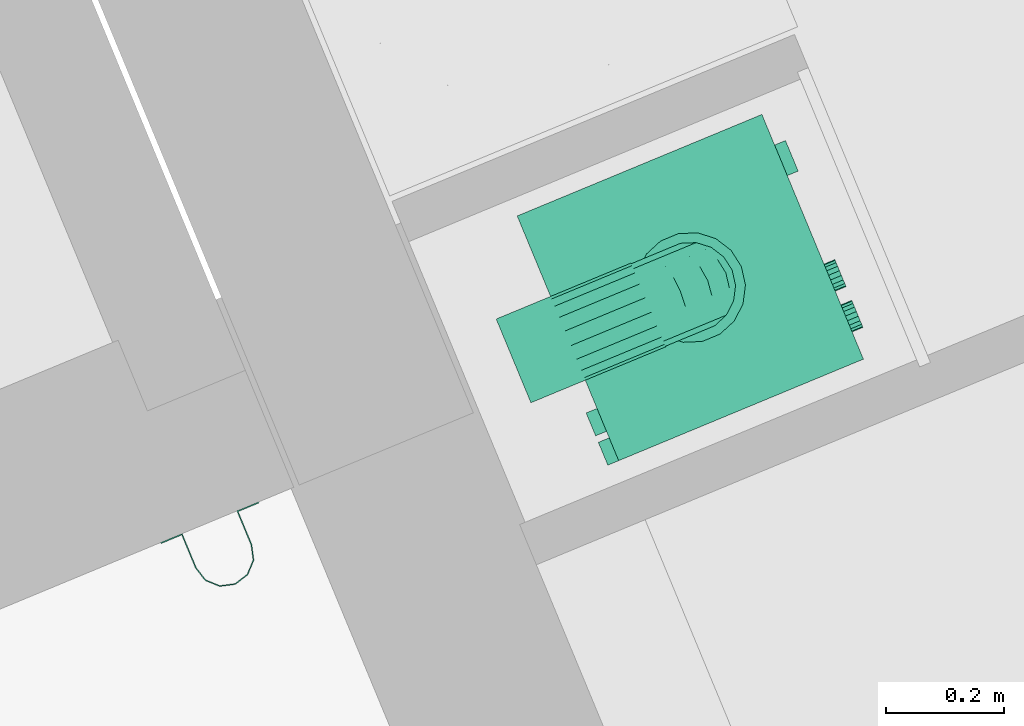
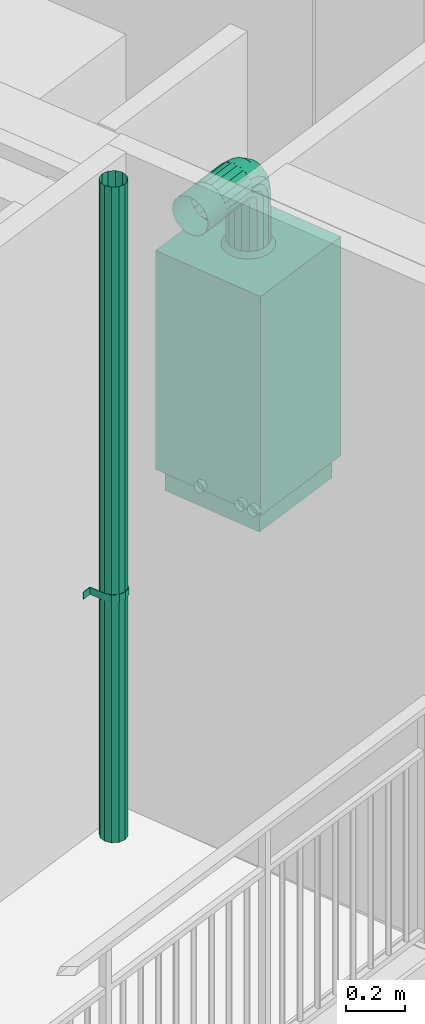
# One storey, part 69 of 90: 1 energy conversion device, 1 flow terminal.
"""IFC2X3 building model written with IfcOpenShell, lengths in metres."""

from ifc_helpers import new_model, entity, si_unit, converted_unit, derived_unit, money_unit, direction, frame, origin_with_axes, place, context, subcontext, project, spatial, open_shell, faceted_brep, surface_model, source, transform, mapped, type_object, element, save


model = new_model("IFC2X3")

# Units and contexts
model_context = context("Model", 3, precision=1e-05, world=origin_with_axes(), true_north=direction((0.0, 1.0)))
body_context = subcontext(model_context, "Body", "Model", "MODEL_VIEW")
ifc_project = project(units=[si_unit("LENGTHUNIT", "METRE"), si_unit("AREAUNIT", "SQUARE_METRE"), si_unit("VOLUMEUNIT", "CUBIC_METRE"), converted_unit("PLANEANGLEUNIT", "DEGREE", entity("IfcPlaneAngleMeasure", 0.0174532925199), si_unit("PLANEANGLEUNIT", "RADIAN"), dimensions=[0, 0, 0, 0, 0, 0, 0]), si_unit("SOLIDANGLEUNIT", "STERADIAN"), money_unit("EUR"), converted_unit("TIMEUNIT", "Year", entity("IfcTimeMeasure", 31556926.0), si_unit("TIMEUNIT", "SECOND"), dimensions=[0, 0, 1, 0, 0, 0, 0]), si_unit("MASSUNIT", "GRAM", prefix="KILO"), si_unit("THERMODYNAMICTEMPERATUREUNIT", "DEGREE_CELSIUS"), si_unit("LUMINOUSINTENSITYUNIT", "LUMEN"), si_unit("ENERGYUNIT", "JOULE", prefix="MEGA"), derived_unit("THERMALCONDUCTANCEUNIT", [(si_unit("POWERUNIT", "WATT"), 1), (si_unit("LENGTHUNIT", "METRE"), -1), (si_unit("THERMODYNAMICTEMPERATUREUNIT", "KELVIN"), -1)]), derived_unit("SPECIFICHEATCAPACITYUNIT", [(si_unit("ENERGYUNIT", "JOULE"), 1), (si_unit("MASSUNIT", "GRAM", prefix="KILO"), -1), (si_unit("THERMODYNAMICTEMPERATUREUNIT", "KELVIN"), -1)]), derived_unit("MASSDENSITYUNIT", [(si_unit("MASSUNIT", "GRAM", prefix="KILO"), 1), (si_unit("VOLUMEUNIT", "CUBIC_METRE"), -1)])], contexts=[model_context])

# Site, building, storey
site_placement = place(None, origin_with_axes())
site = spatial("IfcSite", under=ifc_project, at=site_placement, Name="Site", CompositionType="ELEMENT")
building_placement = place(site_placement, origin_with_axes())
building = spatial("IfcBuilding", under=site, at=building_placement, Name="Bâtiment", CompositionType="ELEMENT")
storey_placement = place(building_placement, frame((0.0, 0.0, 2.72), z_axis=(0.0, 0.0, 1.0), x_axis=(1.0, 0.0, 0.0)))
storey = spatial("IfcBuildingStorey", under=building, at=storey_placement, Name="R+1", CompositionType="ELEMENT", Elevation=2.72)

# Energy conversion device
boiler_type = type_object("IfcBoilerType", Name="Chaudière à gaz 23", PredefinedType="WATER")
shared_shape_1 = source(origin_with_axes(), body_context, "Body", "SurfaceModel", [
    surface_model("IfcShellBasedSurfaceModel", [(-0.2, 0.45, 0.090909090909), (-0.2, 0.47, 0.090909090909), (-0.194564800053, 0.47, 0.0916246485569), (-0.194564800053, 0.45, 0.0916246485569), (-0.205435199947, 0.45, 0.0916246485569), (-0.205435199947, 0.47, 0.0916246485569), (-0.1895, 0.47, 0.0937225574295), (-0.1895, 0.45, 0.0937225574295), (-0.2105, 0.45, 0.0937225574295), (-0.2105, 0.47, 0.0937225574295), (-0.185150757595, 0.47, 0.0970598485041), (-0.185150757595, 0.45, 0.0970598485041), (-0.214849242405, 0.45, 0.0970598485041), (-0.214849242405, 0.47, 0.0970598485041), (-0.181813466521, 0.47, 0.101409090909), (-0.181813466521, 0.45, 0.101409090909), (-0.218186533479, 0.45, 0.101409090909), (-0.218186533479, 0.47, 0.101409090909), (-0.179715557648, 0.47, 0.106473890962), (-0.179715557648, 0.45, 0.106473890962), (-0.220284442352, 0.45, 0.106473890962), (-0.220284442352, 0.47, 0.106473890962), (-0.179, 0.47, 0.111909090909), (-0.179, 0.45, 0.111909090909), (-0.221, 0.45, 0.111909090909), (-0.221, 0.47, 0.111909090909), (-0.179715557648, 0.47, 0.117344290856), (-0.179715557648, 0.45, 0.117344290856), (-0.220284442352, 0.45, 0.117344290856), (-0.220284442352, 0.47, 0.117344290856), (-0.181813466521, 0.47, 0.122409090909), (-0.181813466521, 0.45, 0.122409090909), (-0.218186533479, 0.45, 0.122409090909), (-0.218186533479, 0.47, 0.122409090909), (-0.185150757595, 0.47, 0.126758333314), (-0.185150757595, 0.45, 0.126758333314), (-0.214849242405, 0.45, 0.126758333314), (-0.214849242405, 0.47, 0.126758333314), (-0.1895, 0.47, 0.130095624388), (-0.1895, 0.45, 0.130095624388), (-0.2105, 0.45, 0.130095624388), (-0.2105, 0.47, 0.130095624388), (-0.194564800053, 0.47, 0.132193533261), (-0.194564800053, 0.45, 0.132193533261), (-0.205435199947, 0.45, 0.132193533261), (-0.205435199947, 0.47, 0.132193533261), (-0.2, 0.47, 0.132909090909), (-0.2, 0.45, 0.132909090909)], [open_shell([[[0, 1, 2, 3]], [[4, 5, 1, 0]], [[3, 2, 6, 7]], [[8, 9, 5, 4]], [[7, 6, 10, 11]], [[12, 13, 9, 8]], [[11, 10, 14, 15]], [[16, 17, 13, 12]], [[15, 14, 18, 19]], [[20, 21, 17, 16]], [[19, 18, 22, 23]], [[24, 25, 21, 20]], [[23, 22, 26, 27]], [[28, 29, 25, 24]], [[27, 26, 30, 31]], [[32, 33, 29, 28]], [[31, 30, 34, 35]], [[36, 37, 33, 32]], [[35, 34, 38, 39]], [[40, 41, 37, 36]], [[39, 38, 42, 43]], [[44, 45, 41, 40]], [[43, 42, 46, 47]], [[47, 46, 45, 44]]])]),
    surface_model("IfcShellBasedSurfaceModel", [(-0.375, 0.45, 0.090909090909), (-0.375, 0.47, 0.090909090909), (-0.369564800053, 0.47, 0.0916246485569), (-0.369564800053, 0.45, 0.0916246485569), (-0.380435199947, 0.45, 0.0916246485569), (-0.380435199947, 0.47, 0.0916246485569), (-0.3645, 0.47, 0.0937225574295), (-0.3645, 0.45, 0.0937225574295), (-0.3855, 0.45, 0.0937225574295), (-0.3855, 0.47, 0.0937225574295), (-0.360150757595, 0.47, 0.0970598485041), (-0.360150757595, 0.45, 0.0970598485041), (-0.389849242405, 0.45, 0.0970598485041), (-0.389849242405, 0.47, 0.0970598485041), (-0.356813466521, 0.47, 0.101409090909), (-0.356813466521, 0.45, 0.101409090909), (-0.393186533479, 0.45, 0.101409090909), (-0.393186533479, 0.47, 0.101409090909), (-0.354715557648, 0.47, 0.106473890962), (-0.354715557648, 0.45, 0.106473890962), (-0.395284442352, 0.45, 0.106473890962), (-0.395284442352, 0.47, 0.106473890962), (-0.354, 0.47, 0.111909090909), (-0.354, 0.45, 0.111909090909), (-0.396, 0.45, 0.111909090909), (-0.396, 0.47, 0.111909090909), (-0.354715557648, 0.47, 0.117344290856), (-0.354715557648, 0.45, 0.117344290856), (-0.395284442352, 0.45, 0.117344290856), (-0.395284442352, 0.47, 0.117344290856), (-0.356813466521, 0.47, 0.122409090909), (-0.356813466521, 0.45, 0.122409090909), (-0.393186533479, 0.45, 0.122409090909), (-0.393186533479, 0.47, 0.122409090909), (-0.360150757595, 0.47, 0.126758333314), (-0.360150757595, 0.45, 0.126758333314), (-0.389849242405, 0.45, 0.126758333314), (-0.389849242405, 0.47, 0.126758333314), (-0.3645, 0.47, 0.130095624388), (-0.3645, 0.45, 0.130095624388), (-0.3855, 0.45, 0.130095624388), (-0.3855, 0.47, 0.130095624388), (-0.369564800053, 0.47, 0.132193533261), (-0.369564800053, 0.45, 0.132193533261), (-0.380435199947, 0.45, 0.132193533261), (-0.380435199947, 0.47, 0.132193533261), (-0.375, 0.47, 0.132909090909), (-0.375, 0.45, 0.132909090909)], [open_shell([[[0, 1, 2, 3]], [[4, 5, 1, 0]], [[3, 2, 6, 7]], [[8, 9, 5, 4]], [[7, 6, 10, 11]], [[12, 13, 9, 8]], [[11, 10, 14, 15]], [[16, 17, 13, 12]], [[15, 14, 18, 19]], [[20, 21, 17, 16]], [[19, 18, 22, 23]], [[24, 25, 21, 20]], [[23, 22, 26, 27]], [[28, 29, 25, 24]], [[27, 26, 30, 31]], [[32, 33, 29, 28]], [[31, 30, 34, 35]], [[36, 37, 33, 32]], [[35, 34, 38, 39]], [[40, 41, 37, 36]], [[39, 38, 42, 43]], [[44, 45, 41, 40]], [[43, 42, 46, 47]], [[47, 46, 45, 44]]])]),
    surface_model("IfcShellBasedSurfaceModel", [(-0.429, 0.45, 0.090909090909), (-0.429, 0.47, 0.090909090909), (-0.423564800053, 0.47, 0.0916246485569), (-0.423564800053, 0.45, 0.0916246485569), (-0.434435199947, 0.45, 0.0916246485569), (-0.434435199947, 0.47, 0.0916246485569), (-0.4185, 0.47, 0.0937225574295), (-0.4185, 0.45, 0.0937225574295), (-0.4395, 0.45, 0.0937225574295), (-0.4395, 0.47, 0.0937225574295), (-0.414150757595, 0.47, 0.0970598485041), (-0.414150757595, 0.45, 0.0970598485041), (-0.443849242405, 0.45, 0.0970598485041), (-0.443849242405, 0.47, 0.0970598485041), (-0.410813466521, 0.47, 0.101409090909), (-0.410813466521, 0.45, 0.101409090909), (-0.447186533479, 0.45, 0.101409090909), (-0.447186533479, 0.47, 0.101409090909), (-0.408715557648, 0.47, 0.106473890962), (-0.408715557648, 0.45, 0.106473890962), (-0.449284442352, 0.45, 0.106473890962), (-0.449284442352, 0.47, 0.106473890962), (-0.408, 0.47, 0.111909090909), (-0.408, 0.45, 0.111909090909), (-0.45, 0.45, 0.111909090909), (-0.45, 0.47, 0.111909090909), (-0.408715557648, 0.47, 0.117344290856), (-0.408715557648, 0.45, 0.117344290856), (-0.449284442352, 0.45, 0.117344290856), (-0.449284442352, 0.47, 0.117344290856), (-0.410813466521, 0.47, 0.122409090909), (-0.410813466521, 0.45, 0.122409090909), (-0.447186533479, 0.45, 0.122409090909), (-0.447186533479, 0.47, 0.122409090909), (-0.414150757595, 0.47, 0.126758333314), (-0.414150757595, 0.45, 0.126758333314), (-0.443849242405, 0.45, 0.126758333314), (-0.443849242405, 0.47, 0.126758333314), (-0.4185, 0.47, 0.130095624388), (-0.4185, 0.45, 0.130095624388), (-0.4395, 0.45, 0.130095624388), (-0.4395, 0.47, 0.130095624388), (-0.423564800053, 0.47, 0.132193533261), (-0.423564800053, 0.45, 0.132193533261), (-0.434435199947, 0.45, 0.132193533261), (-0.434435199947, 0.47, 0.132193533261), (-0.429, 0.47, 0.132909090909), (-0.429, 0.45, 0.132909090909)], [open_shell([[[0, 1, 2, 3]], [[4, 5, 1, 0]], [[3, 2, 6, 7]], [[8, 9, 5, 4]], [[7, 6, 10, 11]], [[12, 13, 9, 8]], [[11, 10, 14, 15]], [[16, 17, 13, 12]], [[15, 14, 18, 19]], [[20, 21, 17, 16]], [[19, 18, 22, 23]], [[24, 25, 21, 20]], [[23, 22, 26, 27]], [[28, 29, 25, 24]], [[27, 26, 30, 31]], [[32, 33, 29, 28]], [[31, 30, 34, 35]], [[36, 37, 33, 32]], [[35, 34, 38, 39]], [[40, 41, 37, 36]], [[39, 38, 42, 43]], [[44, 45, 41, 40]], [[43, 42, 46, 47]], [[47, 46, 45, 44]]])]),
    surface_model("IfcShellBasedSurfaceModel", [(-0.225, 0.45, 1.218), (-0.225, 0.55, 1.218), (-0.205070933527, 0.55, 1.22062371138), (-0.205070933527, 0.45, 1.22062371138), (-0.244929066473, 0.45, 1.22062371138), (-0.244929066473, 0.55, 1.22062371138), (-0.1865, 0.55, 1.22831604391), (-0.1865, 0.45, 1.22831604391), (-0.2635, 0.45, 1.22831604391), (-0.2635, 0.55, 1.22831604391), (-0.170552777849, 0.55, 1.24055277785), (-0.170552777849, 0.45, 1.24055277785), (-0.279447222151, 0.45, 1.24055277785), (-0.279447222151, 0.55, 1.24055277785), (-0.158316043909, 0.55, 1.2565), (-0.158316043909, 0.45, 1.2565), (-0.291683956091, 0.45, 1.2565), (-0.291683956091, 0.55, 1.2565), (-0.150623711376, 0.55, 1.27507093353), (-0.150623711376, 0.45, 1.27507093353), (-0.299376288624, 0.45, 1.27507093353), (-0.299376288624, 0.55, 1.27507093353), (-0.148, 0.55, 1.295), (-0.148, 0.45, 1.295), (-0.302, 0.45, 1.295), (-0.302, 0.55, 1.295), (-0.150623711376, 0.55, 1.31492906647), (-0.150623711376, 0.45, 1.31492906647), (-0.299376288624, 0.45, 1.31492906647), (-0.299376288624, 0.55, 1.31492906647), (-0.158316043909, 0.55, 1.3335), (-0.158316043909, 0.45, 1.3335), (-0.291683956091, 0.45, 1.3335), (-0.291683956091, 0.55, 1.3335), (-0.170552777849, 0.55, 1.34944722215), (-0.170552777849, 0.45, 1.34944722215), (-0.279447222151, 0.45, 1.34944722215), (-0.279447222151, 0.55, 1.34944722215), (-0.1865, 0.55, 1.36168395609), (-0.1865, 0.45, 1.36168395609), (-0.2635, 0.45, 1.36168395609), (-0.2635, 0.55, 1.36168395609), (-0.205070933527, 0.55, 1.36937628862), (-0.205070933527, 0.45, 1.36937628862), (-0.244929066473, 0.45, 1.36937628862), (-0.244929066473, 0.55, 1.36937628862), (-0.225, 0.55, 1.372), (-0.225, 0.45, 1.372)], [open_shell([[[0, 1, 2, 3]], [[4, 5, 1, 0]], [[3, 2, 6, 7]], [[8, 9, 5, 4]], [[7, 6, 10, 11]], [[12, 13, 9, 8]], [[11, 10, 14, 15]], [[16, 17, 13, 12]], [[15, 14, 18, 19]], [[20, 21, 17, 16]], [[19, 18, 22, 23]], [[24, 25, 21, 20]], [[23, 22, 26, 27]], [[28, 29, 25, 24]], [[27, 26, 30, 31]], [[32, 33, 29, 28]], [[31, 30, 34, 35]], [[36, 37, 33, 32]], [[35, 34, 38, 39]], [[40, 41, 37, 36]], [[39, 38, 42, 43]], [[44, 45, 41, 40]], [[43, 42, 46, 47]], [[47, 46, 45, 44]]])]),
    faceted_brep([(-0.4275, 0.0225, 0.0), (-0.4275, 0.4275, 0.0), (-0.0225, 0.4275, 0.0), (-0.0225, 0.0225, 0.0), (-0.4275, 0.0225, 0.0909090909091), (-0.4275, 0.4275, 0.0909090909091), (-0.0225, 0.4275, 0.0909090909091), (-0.0225, 0.0225, 0.0909090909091)], [[[0, 1, 2, 3]], [[0, 4, 5, 1]], [[1, 5, 6, 2]], [[2, 6, 7, 3]], [[3, 7, 4, 0]], [[7, 6, 5, 4]]]),
    faceted_brep([(0.0, 0.45, 0.0909090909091), (-0.45, 0.45, 0.0909090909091), (-0.45, 0.45, 1.0), (0.0, 0.45, 1.0), (0.0, 0.0, 0.0909090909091), (-0.45, 0.0, 0.0909090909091), (-0.45, 0.0, 0.818181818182), (-0.45, 0.0225, 0.818181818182), (-0.45, 0.0225, 1.0), (0.0, 0.0225, 1.0), (0.0, 0.0225, 0.818181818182), (0.0, 0.0, 0.818181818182)], [[[0, 1, 2, 3]], [[4, 5, 1, 0]], [[1, 5, 6, 7, 8, 2]], [[3, 2, 8, 9]], [[0, 3, 9, 10, 11, 4]], [[11, 6, 5, 4]], [[10, 7, 6, 11]], [[9, 8, 7, 10]]]),
    faceted_brep([(-0.45, 0.0, 0.818181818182), (-0.45, 0.0225, 0.818181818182), (0.0, 0.0225, 0.818181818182), (0.0, 0.0, 0.818181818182), (-0.45, 0.0, 1.0), (-0.45, 0.0225, 1.0), (0.0, 0.0225, 1.0), (0.0, 0.0, 1.0)], [[[0, 1, 2, 3]], [[0, 4, 5, 1]], [[1, 5, 6, 2]], [[2, 6, 7, 3]], [[3, 7, 4, 0]], [[7, 6, 5, 4]]]),
    faceted_brep([(-0.32349231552, 0.0, 0.900540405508), (-0.325, 0.0, 0.909090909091), (-0.32349231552, 0.0, 0.917641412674), (-0.319151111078, 0.0, 0.925160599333), (-0.3125, 0.0, 0.930741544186), (-0.304341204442, 0.0, 0.933711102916), (-0.295658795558, 0.0, 0.933711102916), (-0.2875, 0.0, 0.930741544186), (-0.280848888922, 0.0, 0.925160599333), (-0.27650768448, 0.0, 0.917641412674), (-0.275, 0.0, 0.909090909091), (-0.27650768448, 0.0, 0.900540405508), (-0.280848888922, 0.0, 0.893021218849), (-0.2875, 0.0, 0.887440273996), (-0.295658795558, 0.0, 0.884470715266), (-0.304341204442, 0.0, 0.884470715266), (-0.3125, 0.0, 0.887440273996), (-0.319151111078, 0.0, 0.893021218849), (-0.32349231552, -0.02, 0.900540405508), (-0.325, -0.02, 0.909090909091), (-0.32349231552, -0.02, 0.917641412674), (-0.319151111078, -0.02, 0.925160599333), (-0.3125, -0.02, 0.930741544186), (-0.304341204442, -0.02, 0.933711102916), (-0.295658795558, -0.02, 0.933711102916), (-0.2875, -0.02, 0.930741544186), (-0.280848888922, -0.02, 0.925160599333), (-0.27650768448, -0.02, 0.917641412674), (-0.275, -0.02, 0.909090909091), (-0.27650768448, -0.02, 0.900540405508), (-0.280848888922, -0.02, 0.893021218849), (-0.2875, -0.02, 0.887440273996), (-0.295658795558, -0.02, 0.884470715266), (-0.304341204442, -0.02, 0.884470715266), (-0.3125, -0.02, 0.887440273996), (-0.319151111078, -0.02, 0.893021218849)], [[[0, 1, 2, 3, 4, 5, 6, 7, 8, 9, 10, 11, 12, 13, 14, 15, 16, 17]], [[0, 18, 19, 1]], [[1, 19, 20, 2]], [[2, 20, 21, 3]], [[3, 21, 22, 4]], [[4, 22, 23, 5]], [[5, 23, 24, 6]], [[6, 24, 25, 7]], [[7, 25, 26, 8]], [[8, 26, 27, 9]], [[9, 27, 28, 10]], [[10, 28, 29, 11]], [[11, 29, 30, 12]], [[12, 30, 31, 13]], [[13, 31, 32, 14]], [[14, 32, 33, 15]], [[15, 33, 34, 16]], [[16, 34, 35, 17]], [[17, 35, 18, 0]], [[18, 35, 34, 33, 32, 31, 30, 29, 28, 27, 26, 25, 24, 23, 22, 21, 20, 19]]]),
    faceted_brep([(-0.39849231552, 0.0, 0.900540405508), (-0.4, 0.0, 0.909090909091), (-0.39849231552, 0.0, 0.917641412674), (-0.394151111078, 0.0, 0.925160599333), (-0.3875, 0.0, 0.930741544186), (-0.379341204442, 0.0, 0.933711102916), (-0.370658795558, 0.0, 0.933711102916), (-0.3625, 0.0, 0.930741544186), (-0.355848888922, 0.0, 0.925160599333), (-0.35150768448, 0.0, 0.917641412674), (-0.35, 0.0, 0.909090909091), (-0.35150768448, 0.0, 0.900540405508), (-0.355848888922, 0.0, 0.893021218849), (-0.3625, 0.0, 0.887440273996), (-0.370658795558, 0.0, 0.884470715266), (-0.379341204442, 0.0, 0.884470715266), (-0.3875, 0.0, 0.887440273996), (-0.394151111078, 0.0, 0.893021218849), (-0.39849231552, -0.02, 0.900540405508), (-0.4, -0.02, 0.909090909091), (-0.39849231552, -0.02, 0.917641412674), (-0.394151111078, -0.02, 0.925160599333), (-0.3875, -0.02, 0.930741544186), (-0.379341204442, -0.02, 0.933711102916), (-0.370658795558, -0.02, 0.933711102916), (-0.3625, -0.02, 0.930741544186), (-0.355848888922, -0.02, 0.925160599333), (-0.35150768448, -0.02, 0.917641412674), (-0.35, -0.02, 0.909090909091), (-0.35150768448, -0.02, 0.900540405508), (-0.355848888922, -0.02, 0.893021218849), (-0.3625, -0.02, 0.887440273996), (-0.370658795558, -0.02, 0.884470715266), (-0.379341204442, -0.02, 0.884470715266), (-0.3875, -0.02, 0.887440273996), (-0.394151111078, -0.02, 0.893021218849)], [[[0, 1, 2, 3, 4, 5, 6, 7, 8, 9, 10, 11, 12, 13, 14, 15, 16, 17]], [[0, 18, 19, 1]], [[1, 19, 20, 2]], [[2, 20, 21, 3]], [[3, 21, 22, 4]], [[4, 22, 23, 5]], [[5, 23, 24, 6]], [[6, 24, 25, 7]], [[7, 25, 26, 8]], [[8, 26, 27, 9]], [[9, 27, 28, 10]], [[10, 28, 29, 11]], [[11, 29, 30, 12]], [[12, 30, 31, 13]], [[13, 31, 32, 14]], [[14, 32, 33, 15]], [[15, 33, 34, 16]], [[16, 34, 35, 17]], [[17, 35, 18, 0]], [[18, 35, 34, 33, 32, 31, 30, 29, 28, 27, 26, 25, 24, 23, 22, 21, 20, 19]]]),
    faceted_brep([(-0.1125, 0.0, 0.878787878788), (-0.1125, 0.0, 0.939393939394), (-0.05625, 0.0, 0.939393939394), (-0.05625, 0.0, 0.878787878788), (-0.1125, -0.02, 0.878787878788), (-0.1125, -0.02, 0.939393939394), (-0.05625, -0.02, 0.939393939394), (-0.05625, -0.02, 0.878787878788)], [[[0, 1, 2, 3]], [[0, 4, 5, 1]], [[1, 5, 6, 2]], [[2, 6, 7, 3]], [[3, 7, 4, 0]], [[7, 6, 5, 4]]]),
    surface_model("IfcShellBasedSurfaceModel", [(-0.198664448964, 0.297356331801, 1.22), (-0.198664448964, 0.297356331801, 1.02), (-0.225, 0.302, 1.02), (-0.225, 0.302, 1.22), (-0.175505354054, 0.28398542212, 1.22), (-0.175505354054, 0.28398542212, 1.02), (-0.192935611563, 0.313096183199, 1.0), (-0.225, 0.31875, 1.0), (-0.251335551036, 0.297356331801, 1.02), (-0.251335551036, 0.297356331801, 1.22), (-0.158316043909, 0.2635, 1.22), (-0.158316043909, 0.2635, 1.02), (-0.164738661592, 0.296816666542, 1.0), (-0.257064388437, 0.313096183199, 1.0), (-0.274494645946, 0.28398542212, 1.02), (-0.274494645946, 0.28398542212, 1.22), (-0.149169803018, 0.23837090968, 1.22), (-0.149169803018, 0.23837090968, 1.02), (-0.143810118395, 0.271875, 1.0), (-0.285261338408, 0.296816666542, 1.0), (-0.291683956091, 0.2635, 1.02), (-0.291683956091, 0.2635, 1.22), (-0.149169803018, 0.21162909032, 1.22), (-0.149169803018, 0.21162909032, 1.02), (-0.132674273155, 0.241279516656, 1.0), (-0.306189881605, 0.271875, 1.0), (-0.300830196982, 0.23837090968, 1.02), (-0.300830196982, 0.23837090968, 1.22), (-0.158316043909, 0.1865, 1.22), (-0.158316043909, 0.1865, 1.02), (-0.132674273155, 0.208720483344, 1.0), (-0.317325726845, 0.241279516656, 1.0), (-0.300830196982, 0.21162909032, 1.02), (-0.300830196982, 0.21162909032, 1.22), (-0.175505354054, 0.16601457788, 1.22), (-0.175505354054, 0.16601457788, 1.02), (-0.143810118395, 0.178125, 1.0), (-0.317325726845, 0.208720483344, 1.0), (-0.291683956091, 0.1865, 1.02), (-0.291683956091, 0.1865, 1.22), (-0.198664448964, 0.152643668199, 1.22), (-0.198664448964, 0.152643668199, 1.02), (-0.164738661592, 0.153183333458, 1.0), (-0.306189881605, 0.178125, 1.0), (-0.274494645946, 0.16601457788, 1.02), (-0.274494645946, 0.16601457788, 1.22), (-0.225, 0.148, 1.22), (-0.225, 0.148, 1.02), (-0.192935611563, 0.136903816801, 1.0), (-0.285261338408, 0.153183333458, 1.0), (-0.251335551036, 0.152643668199, 1.02), (-0.251335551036, 0.152643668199, 1.22), (-0.225, 0.13125, 1.0), (-0.257064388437, 0.136903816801, 1.0)], [open_shell([[[0, 1, 2, 3]], [[4, 5, 1, 0]], [[1, 6, 7, 2]], [[3, 2, 8, 9]], [[10, 11, 5, 4]], [[5, 12, 6, 1]], [[2, 7, 13, 8]], [[9, 8, 14, 15]], [[16, 17, 11, 10]], [[11, 18, 12, 5]], [[8, 13, 19, 14]], [[15, 14, 20, 21]], [[22, 23, 17, 16]], [[17, 24, 18, 11]], [[14, 19, 25, 20]], [[21, 20, 26, 27]], [[28, 29, 23, 22]], [[23, 30, 24, 17]], [[20, 25, 31, 26]], [[27, 26, 32, 33]], [[34, 35, 29, 28]], [[29, 36, 30, 23]], [[26, 31, 37, 32]], [[33, 32, 38, 39]], [[40, 41, 35, 34]], [[35, 42, 36, 29]], [[32, 37, 43, 38]], [[39, 38, 44, 45]], [[46, 47, 41, 40]], [[41, 48, 42, 35]], [[38, 43, 49, 44]], [[45, 44, 50, 51]], [[51, 50, 47, 46]], [[47, 52, 48, 41]], [[44, 49, 53, 50]], [[50, 53, 52, 47]]])]),
    faceted_brep([(-0.300830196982, 0.218508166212, 1.2545834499), (-0.300830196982, 0.21162909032, 1.22), (-0.291683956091, 0.1865, 1.22), (-0.291683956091, 0.195291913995, 1.26419993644), (-0.300830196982, 0.243214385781, 1.24434979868), (-0.300830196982, 0.23837090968, 1.22), (-0.291683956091, 0.2635, 1.22), (-0.274494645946, 0.28398542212, 1.22), (-0.251335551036, 0.297356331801, 1.22), (-0.225, 0.302, 1.22), (-0.198664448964, 0.297356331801, 1.22), (-0.175505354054, 0.28398542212, 1.22), (-0.158316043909, 0.2635, 1.22), (-0.149169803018, 0.23837090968, 1.22), (-0.149169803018, 0.21162909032, 1.22), (-0.158316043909, 0.1865, 1.22), (-0.175505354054, 0.16601457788, 1.22), (-0.198664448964, 0.152643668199, 1.22), (-0.225, 0.148, 1.22), (-0.251335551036, 0.152643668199, 1.22), (-0.274494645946, 0.16601457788, 1.22), (-0.274494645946, 0.176365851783, 1.27203936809), (-0.300830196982, 0.238098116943, 1.28390188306), (-0.291683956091, 0.220329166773, 1.30167083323), (-0.300830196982, 0.257007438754, 1.26499256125), (-0.291683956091, 0.266430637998, 1.23473331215), (-0.274494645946, 0.28535670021, 1.2268938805), (-0.251335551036, 0.297709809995, 1.22177705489), (-0.198664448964, 0.297709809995, 1.22177705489), (-0.175505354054, 0.28535670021, 1.2268938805), (-0.158316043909, 0.266430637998, 1.23473331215), (-0.149169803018, 0.243214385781, 1.24434979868), (-0.149169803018, 0.218508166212, 1.2545834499), (-0.158316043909, 0.195291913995, 1.26419993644), (-0.175505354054, 0.176365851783, 1.27203936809), (-0.198664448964, 0.164012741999, 1.2771561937), (-0.225, 0.159722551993, 1.27893324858), (-0.251335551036, 0.164012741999, 1.2771561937), (-0.274494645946, 0.205843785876, 1.31615621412), (-0.291683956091, 0.257800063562, 1.32670808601), (-0.300830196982, 0.267416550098, 1.30349183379), (-0.300830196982, 0.277650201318, 1.27878561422), (-0.291683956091, 0.274776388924, 1.24722361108), (-0.274494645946, 0.289261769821, 1.23273823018), (-0.251335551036, 0.298716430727, 1.22328356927), (-0.198664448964, 0.298716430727, 1.22328356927), (-0.175505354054, 0.289261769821, 1.23273823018), (-0.158316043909, 0.274776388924, 1.24722361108), (-0.149169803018, 0.257007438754, 1.26499256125), (-0.149169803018, 0.238098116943, 1.28390188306), (-0.158316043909, 0.220329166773, 1.30167083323), (-0.175505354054, 0.205843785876, 1.31615621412), (-0.198664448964, 0.196389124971, 1.32561087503), (-0.225, 0.193105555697, 1.3288944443), (-0.251335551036, 0.196389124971, 1.32561087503), (-0.274494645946, 0.249960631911, 1.34563414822), (-0.291683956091, 0.302, 1.3355), (-0.300830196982, 0.302, 1.31037090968), (-0.300830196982, 0.302, 1.28362909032), (-0.291683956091, 0.287266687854, 1.255569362), (-0.274494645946, 0.295106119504, 1.23664329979), (-0.251335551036, 0.300222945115, 1.22429019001), (-0.198664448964, 0.300222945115, 1.22429019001), (-0.175505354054, 0.295106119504, 1.23664329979), (-0.158316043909, 0.287266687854, 1.255569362), (-0.149169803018, 0.277650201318, 1.27878561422), (-0.149169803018, 0.267416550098, 1.30349183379), (-0.158316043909, 0.257800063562, 1.32670808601), (-0.175505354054, 0.249960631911, 1.34563414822), (-0.198664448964, 0.244843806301, 1.357987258), (-0.225, 0.243066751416, 1.36227744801), (-0.251335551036, 0.244843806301, 1.357987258), (-0.274494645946, 0.302, 1.35598542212), (-0.291683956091, 0.302, 1.2585), (-0.251335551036, 0.302, 1.3693563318), (-0.225, 0.302, 1.374), (-0.198664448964, 0.302, 1.3693563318), (-0.175505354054, 0.302, 1.35598542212), (-0.158316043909, 0.302, 1.3355), (-0.149169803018, 0.302, 1.31037090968), (-0.149169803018, 0.302, 1.28362909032), (-0.158316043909, 0.302, 1.2585), (-0.175505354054, 0.302, 1.23801457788), (-0.198664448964, 0.302, 1.2246436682), (-0.251335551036, 0.302, 1.2246436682), (-0.274494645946, 0.302, 1.23801457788)], [[[0, 1, 2, 3]], [[1, 0, 4, 5]], [[2, 1, 5, 6, 7, 8, 9, 10, 11, 12, 13, 14, 15, 16, 17, 18, 19, 20]], [[3, 2, 20, 21]], [[22, 0, 3, 23]], [[0, 22, 24, 4]], [[6, 5, 4, 25]], [[26, 7, 6, 25]], [[7, 26, 27, 8]], [[8, 27, 9]], [[28, 10, 9]], [[10, 28, 29, 11]], [[30, 12, 11, 29]], [[12, 30, 31, 13]], [[32, 14, 13, 31]], [[15, 14, 32, 33]], [[34, 16, 15, 33]], [[17, 16, 34, 35]], [[36, 18, 17, 35]], [[19, 18, 36, 37]], [[21, 20, 19, 37]], [[23, 3, 21, 38]], [[22, 23, 39, 40]], [[24, 22, 40, 41]], [[4, 24, 42, 25]], [[43, 26, 25, 42]], [[26, 43, 44, 27]], [[27, 44, 9]], [[45, 28, 9]], [[28, 45, 46, 29]], [[29, 46, 47, 30]], [[31, 30, 47, 48]], [[49, 32, 31, 48]], [[32, 49, 50, 33]], [[51, 34, 33, 50]], [[35, 34, 51, 52]], [[53, 36, 35, 52]], [[54, 37, 36, 53]], [[38, 21, 37, 54]], [[39, 23, 38, 55]], [[40, 39, 56, 57]], [[41, 40, 57, 58]], [[59, 42, 24, 41]], [[42, 59, 60, 43]], [[43, 60, 61, 44]], [[44, 61, 9]], [[62, 45, 9]], [[45, 62, 63, 46]], [[46, 63, 64, 47]], [[47, 64, 65, 48]], [[66, 49, 48, 65]], [[50, 49, 66, 67]], [[68, 51, 50, 67]], [[52, 51, 68, 69]], [[53, 52, 69, 70]], [[71, 54, 53, 70]], [[55, 38, 54, 71]], [[56, 39, 55, 72]], [[73, 58, 57, 56, 72, 74, 75, 76, 77, 78, 79, 80, 81, 82, 83, 9, 84, 85]], [[59, 41, 58, 73]], [[59, 73, 85, 60]], [[60, 85, 84, 61]], [[61, 84, 9]], [[62, 9, 83]], [[63, 62, 83, 82]], [[63, 82, 81, 64]], [[65, 64, 81, 80]], [[66, 65, 80, 79]], [[67, 66, 79, 78]], [[77, 68, 67, 78]], [[69, 68, 77, 76]], [[75, 70, 69, 76]], [[71, 70, 75, 74]], [[72, 55, 71, 74]]]),
    surface_model("IfcShellBasedSurfaceModel", [(-0.152643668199, 0.45, 1.32333555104), (-0.152643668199, 0.302, 1.32333555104), (-0.148, 0.302, 1.297), (-0.148, 0.45, 1.297), (-0.16601457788, 0.45, 1.34649464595), (-0.16601457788, 0.302, 1.34649464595), (-0.152643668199, 0.302, 1.27066444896), (-0.152643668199, 0.45, 1.27066444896), (-0.1865, 0.45, 1.36368395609), (-0.1865, 0.302, 1.36368395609), (-0.16601457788, 0.302, 1.24750535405), (-0.16601457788, 0.45, 1.24750535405), (-0.21162909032, 0.45, 1.37283019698), (-0.21162909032, 0.302, 1.37283019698), (-0.1865, 0.302, 1.23031604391), (-0.1865, 0.45, 1.23031604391), (-0.23837090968, 0.45, 1.37283019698), (-0.23837090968, 0.302, 1.37283019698), (-0.21162909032, 0.302, 1.22116980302), (-0.21162909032, 0.45, 1.22116980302), (-0.2635, 0.45, 1.36368395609), (-0.2635, 0.302, 1.36368395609), (-0.23837090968, 0.302, 1.22116980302), (-0.23837090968, 0.45, 1.22116980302), (-0.28398542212, 0.45, 1.34649464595), (-0.28398542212, 0.302, 1.34649464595), (-0.2635, 0.302, 1.23031604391), (-0.2635, 0.45, 1.23031604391), (-0.297356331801, 0.45, 1.32333555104), (-0.297356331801, 0.302, 1.32333555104), (-0.28398542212, 0.302, 1.24750535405), (-0.28398542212, 0.45, 1.24750535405), (-0.302, 0.45, 1.297), (-0.302, 0.302, 1.297), (-0.297356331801, 0.302, 1.27066444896), (-0.297356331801, 0.45, 1.27066444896)], [open_shell([[[0, 1, 2, 3]], [[4, 5, 1, 0]], [[3, 2, 6, 7]], [[8, 9, 5, 4]], [[7, 6, 10, 11]], [[12, 13, 9, 8]], [[11, 10, 14, 15]], [[16, 17, 13, 12]], [[15, 14, 18, 19]], [[20, 21, 17, 16]], [[19, 18, 22, 23]], [[24, 25, 21, 20]], [[23, 22, 26, 27]], [[28, 29, 25, 24]], [[27, 26, 30, 31]], [[32, 33, 29, 28]], [[31, 30, 34, 35]], [[35, 34, 33, 32]]])]),
])
energy_conversion_device_placement = place(storey_placement, frame((-20.8183897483, -24.0717725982, 0.9), z_axis=(0.0, 0.0, 1.0), x_axis=(-0.383112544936, 0.92370167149, 0.0)))
element("IfcEnergyConversionDevice", 1, at=energy_conversion_device_placement, inside=storey, type_object=boiler_type, Name="MOB-002", context=body_context, shape_type="MappedRepresentation", body=[
    mapped(shared_shape_1, transform((0.0, 0.0, 0.0))),
])

# Flow terminal
waste_terminal_type = type_object("IfcWasteTerminalType", Name="Tuyau descente 23", PredefinedType="GULLYTRAP")
shared_shape_2 = source(origin_with_axes(), body_context, "Body", "SurfaceModel", [
    surface_model("IfcShellBasedSurfaceModel", [(0.05, -0.0125, 2.7222918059), (0.0433012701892, -0.0375, 2.7222918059), (0.0433012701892, -0.0375, 0.0), (0.05, -0.0125, 0.0), (0.025, -0.0558012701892, 2.7222918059), (0.025, -0.0558012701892, 0.0), (0.0433012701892, 0.0125, 2.7222918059), (0.0433012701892, 0.0125, 0.0), (0.0, -0.0625, 2.7222918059), (0.0, -0.0625, 0.0), (0.025, 0.0308012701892, 2.7222918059), (0.025, 0.0308012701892, 0.0), (-0.025, -0.0558012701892, 2.7222918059), (-0.025, -0.0558012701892, 0.0), (0.0, 0.0375, 2.7222918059), (0.0, 0.0375, 0.0), (-0.0433012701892, -0.0375, 2.7222918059), (-0.0433012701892, -0.0375, 0.0), (-0.025, 0.0308012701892, 2.7222918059), (-0.025, 0.0308012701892, 0.0), (-0.05, -0.0125, 2.7222918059), (-0.05, -0.0125, 0.0), (-0.0433012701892, 0.0125, 2.7222918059), (-0.0433012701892, 0.0125, 0.0)], [open_shell([[[0, 1, 2, 3]], [[1, 4, 5, 2]], [[6, 0, 3, 7]], [[4, 8, 9, 5]], [[10, 6, 7, 11]], [[8, 12, 13, 9]], [[14, 10, 11, 15]], [[12, 16, 17, 13]], [[18, 14, 15, 19]], [[16, 20, 21, 17]], [[22, 18, 19, 23]], [[20, 22, 23, 21]]])]),
    faceted_brep([(-0.09, 0.0479, 1.0), (-0.052, 0.0479, 1.0), (-0.052, 0.0479, 1.03), (-0.09, 0.0479, 1.03), (-0.09, 0.0499, 1.0), (-0.0502, 0.0499, 1.0), (-0.0502, -0.0126, 1.0), (-0.04347447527, -0.0377, 1.0), (-0.0251, -0.05607447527, 1.0), (0.0, -0.0628, 1.0), (0.0251, -0.05607447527, 1.0), (0.04347447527, -0.0377, 1.0), (0.0502, -0.0126, 1.0), (0.0502, 0.0499, 1.0), (0.09, 0.0499, 1.0), (0.09, 0.0479, 1.0), (0.052, 0.0479, 1.0), (0.052, -0.0126, 1.0), (0.0450333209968, -0.0386, 1.0), (0.026, -0.0576333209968, 1.0), (0.0, -0.0646, 1.0), (-0.026, -0.0576333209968, 1.0), (-0.0450333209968, -0.0386, 1.0), (-0.052, -0.0126, 1.0), (-0.052, -0.0126, 1.03), (-0.0450333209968, -0.0386, 1.03), (-0.026, -0.0576333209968, 1.03), (0.0, -0.0646, 1.03), (0.026, -0.0576333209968, 1.03), (0.0450333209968, -0.0386, 1.03), (0.052, -0.0126, 1.03), (0.052, 0.0479, 1.03), (0.09, 0.0479, 1.03), (0.09, 0.0499, 1.03), (0.0502, 0.0499, 1.03), (0.0502, -0.0126, 1.03), (0.04347447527, -0.0377, 1.03), (0.0251, -0.05607447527, 1.03), (0.0, -0.0628, 1.03), (-0.0251, -0.05607447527, 1.03), (-0.04347447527, -0.0377, 1.03), (-0.0502, -0.0126, 1.03), (-0.0502, 0.0499, 1.03), (-0.09, 0.0499, 1.03)], [[[0, 1, 2, 3]], [[0, 4, 5, 6, 7, 8, 9, 10, 11, 12, 13, 14, 15, 16, 17, 18, 19, 20, 21, 22, 23, 1]], [[1, 23, 24, 2]], [[3, 2, 24, 25, 26, 27, 28, 29, 30, 31, 32, 33, 34, 35, 36, 37, 38, 39, 40, 41, 42, 43]], [[4, 0, 3, 43]], [[5, 4, 43, 42]], [[6, 5, 42, 41]], [[7, 6, 41, 40]], [[8, 7, 40, 39]], [[9, 8, 39, 38]], [[10, 9, 38, 37]], [[11, 10, 37, 36]], [[12, 11, 36, 35]], [[13, 12, 35, 34]], [[14, 13, 34, 33]], [[15, 14, 33, 32]], [[16, 15, 32, 31]], [[17, 16, 31, 30]], [[18, 17, 30, 29]], [[19, 18, 29, 28]], [[20, 19, 28, 27]], [[21, 20, 27, 26]], [[22, 21, 26, 25]], [[23, 22, 25, 24]]]),
])
flow_terminal_placement = place(storey_placement, frame((-21.7374415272, -24.8104731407, 0.0), z_axis=(0.0, 0.0, 1.0), x_axis=(0.923701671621, 0.383112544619, 0.0)))
element("IfcFlowTerminal", 2, at=flow_terminal_placement, inside=storey, type_object=waste_terminal_type, Name="MOB-006", context=body_context, shape_type="MappedRepresentation", body=[
    mapped(shared_shape_2, transform((0.0, 0.0, 0.0))),
])

save(model, "model.ifc")
